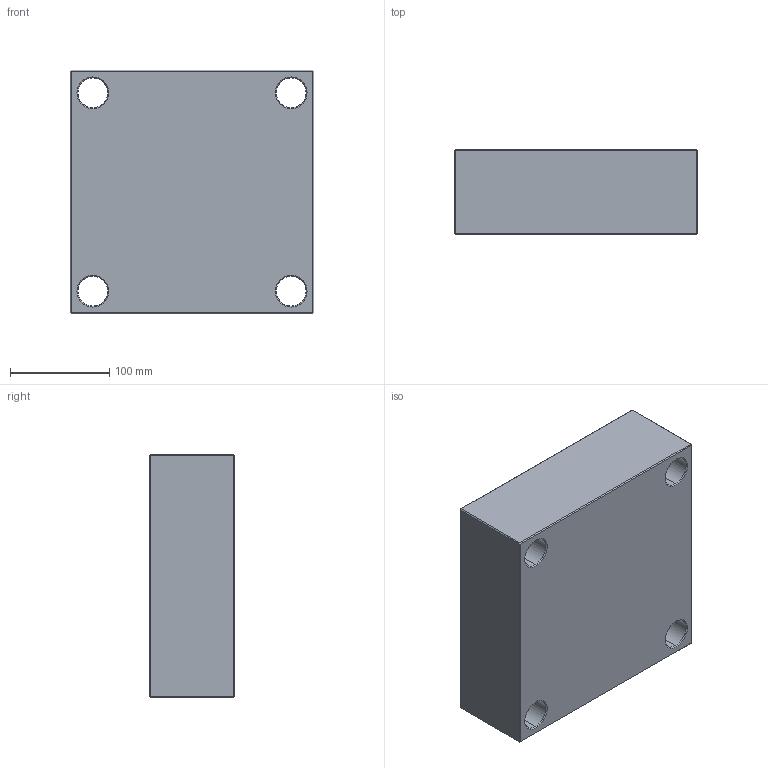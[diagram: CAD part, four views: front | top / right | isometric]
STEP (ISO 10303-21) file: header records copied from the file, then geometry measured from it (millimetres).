
FILE_DESCRIPTION (( 'STEP AP214' ), '1' );
FILE_NAME ('PC-246x246x86.STEP', '2020-04-21T16:08:22', ( 'August' ), ( '' ), 'SwSTEP 2.0', 'SolidWorks 2018', '' );
FILE_SCHEMA (( 'AUTOMOTIVE_DESIGN' ));
Length unit declared in the file: millimetre
Products named in the file (1): PC-246x246x86
Bounding box: 246 x 86 x 246 mm (x, y, z)
Volume: 4940868.4 mm3; surface area: 234600.6 mm2
Topology: 1 solids, 1 shells, 82 faces, 168 edges, 96 vertices
Faces by surface type: plane 34, cone 24, cylinder 24
Entity records: 2170 total; most frequent: DIRECTION 406, CARTESIAN_POINT 347, ORIENTED_EDGE 336, EDGE_CURVE 168, AXIS2_PLACEMENT_3D 155, EDGE_LOOP 98, LINE 96, VECTOR 96
